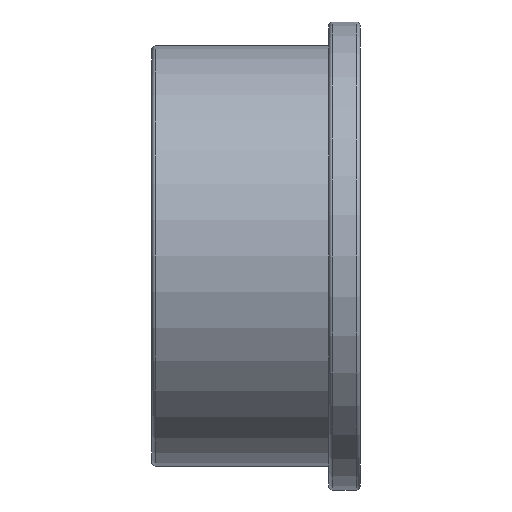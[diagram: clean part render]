
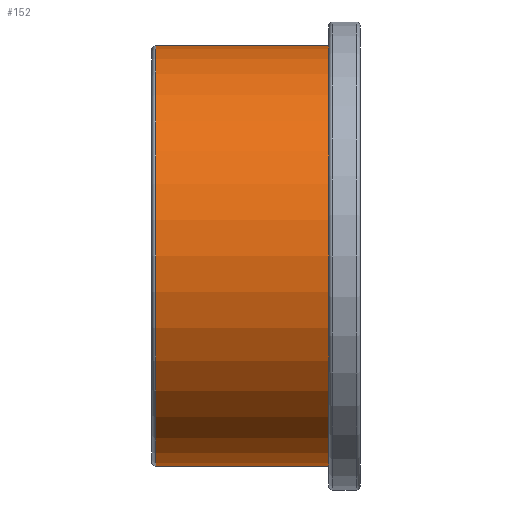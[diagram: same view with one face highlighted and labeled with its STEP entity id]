
A CAD part, front view. The second image highlights one B-rep face of the part: STEP entity #152.
In plain terms, the highlighted cylindrical face has radius 114 mm (diameter 228 mm), a full revolution.
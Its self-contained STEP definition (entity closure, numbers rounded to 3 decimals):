
#21=CYLINDRICAL_SURFACE('',#176,114.);
#30=FACE_BOUND('',#64,.T.);
#43=FACE_OUTER_BOUND('',#63,.T.);
#63=EDGE_LOOP('',(#128));
#64=EDGE_LOOP('',(#129));
#78=CIRCLE('',#166,114.);
#83=CIRCLE('',#175,114.);
#91=VERTEX_POINT('',#250);
#96=VERTEX_POINT('',#264);
#104=EDGE_CURVE('',#91,#91,#78,.T.);
#109=EDGE_CURVE('',#96,#96,#83,.T.);
#128=ORIENTED_EDGE('',*,*,#104,.T.);
#129=ORIENTED_EDGE('',*,*,#109,.F.);
#152=ADVANCED_FACE('',(#43,#30),#21,.T.);
#166=AXIS2_PLACEMENT_3D('',#251,#200,#201);
#175=AXIS2_PLACEMENT_3D('',#265,#218,#219);
#176=AXIS2_PLACEMENT_3D('',#266,#220,#221);
#200=DIRECTION('center_axis',(-1.,0.,0.));
#201=DIRECTION('ref_axis',(0.,0.,1.));
#218=DIRECTION('center_axis',(-1.,0.,0.));
#219=DIRECTION('ref_axis',(0.,1.,0.));
#220=DIRECTION('center_axis',(-1.,0.,0.));
#221=DIRECTION('ref_axis',(0.,-1.,0.));
#250=CARTESIAN_POINT('',(96.,-114.,0.));
#251=CARTESIAN_POINT('Origin',(96.,0.,0.));
#264=CARTESIAN_POINT('',(2.,-114.,0.));
#265=CARTESIAN_POINT('Origin',(2.,0.,0.));
#266=CARTESIAN_POINT('Origin',(48.,0.,0.));
